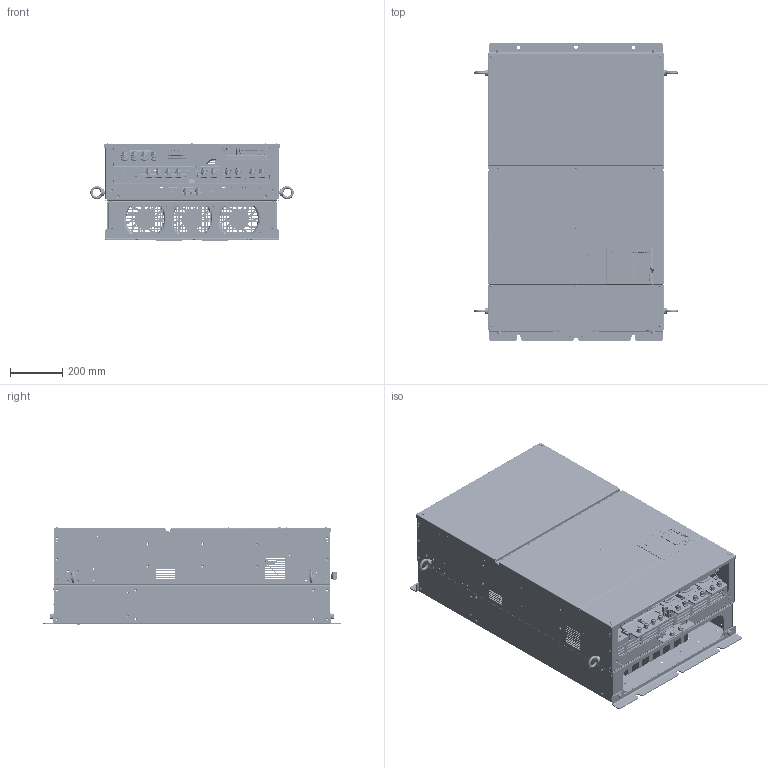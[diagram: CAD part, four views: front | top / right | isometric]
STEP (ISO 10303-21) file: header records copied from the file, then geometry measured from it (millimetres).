
FILE_DESCRIPTION((''),'2;1');
FILE_NAME('CIMR-DC4A0370AAA_ASM','2014-01-31T',('takeyama'),('YASKAWA ELECTRIC CORCORATION'),'PRO/ENGINEER BY PARAMETRIC TECHNOLOGY CORPORATION, 2011330','PRO/ENGINEER BY PARAMETRIC TECHNOLOGY CORPORATION, 2011330','');
FILE_SCHEMA(('AUTOMOTIVE_DESIGN { 1 0 10303 214 1 1 1 1 }'));
Products named in the file (9): CIMR-DC4A0370AAA_CASE; CIMR-DC4A0370AAA_BRACKET_1; CIMR-DC4A0370AAA_BRACKET_2; CIMR-DC4A0370AAA_FUSE; CIMR-DC4A0370AAA_DIGO; CIMR-DC4A0370AAA_ETC740520; CIMR-DC4A0370AAA_COVER1; CIMR-DC4A0370AAA_COVER2; CIMR-DC4A0370AAA_ASM
Assembly tree (8 placements, depth 2):
  CIMR-DC4A0370AAA_ASM
    CIMR-DC4A0370AAA_CASE
    CIMR-DC4A0370AAA_BRACKET_1
    CIMR-DC4A0370AAA_BRACKET_2
    CIMR-DC4A0370AAA_FUSE
    CIMR-DC4A0370AAA_DIGO
    CIMR-DC4A0370AAA_ETC740520
    CIMR-DC4A0370AAA_COVER1
    CIMR-DC4A0370AAA_COVER2
Bounding box: 781.2 x 1140 x 376.76 mm (x, y, z)
Volume: 25037527.1 mm3; surface area: 18127111.1 mm2
Topology: 43 solids, 50 shells, 32661 faces, 86605 edges, 54751 vertices
Faces by surface type: plane 21353, cylinder 6863, cone 1816, bspline 1468, sphere 670, torus 491
Entity records: 1309906 total; most frequent: CARTESIAN_POINT 322867, ORIENTED_EDGE 172476, DIRECTION 157736, EDGE_CURVE 86238, VECTOR 62824, LINE 62824, VERTEX_POINT 54742, AXIS2_PLACEMENT_3D 47456
